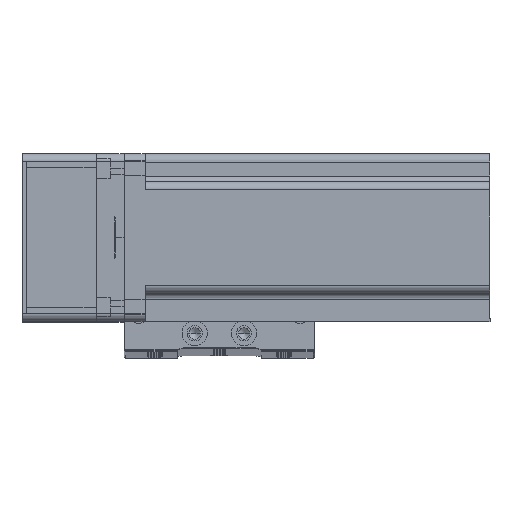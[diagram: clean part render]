
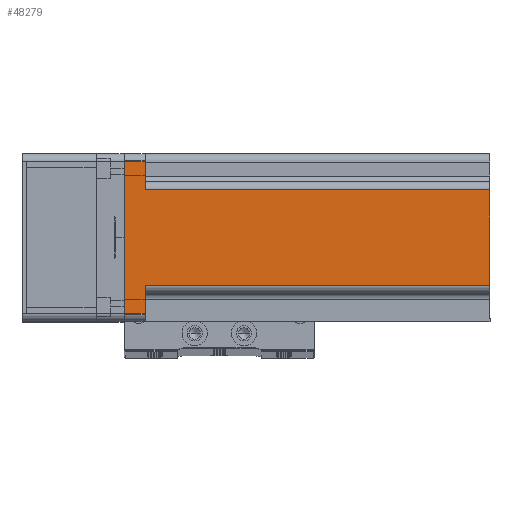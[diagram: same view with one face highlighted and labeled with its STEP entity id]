
A CAD part, top view. The second image highlights one B-rep face of the part: STEP entity #48279.
In plain terms, the highlighted planar face has unit normal (0, 0, 1) as drawn and (0, 1, 0) by its records, which use the part's own axes.
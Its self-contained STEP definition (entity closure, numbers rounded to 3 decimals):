
#1759 = ORIENTED_EDGE ( 'NONE', *, *, #52385, .F. ) ;
#3037 = EDGE_CURVE ( 'NONE', #34944, #45047, #24202, .T. ) ;
#3430 = DIRECTION ( 'NONE',  ( 0., 0., 1. ) ) ;
#4714 = CARTESIAN_POINT ( 'NONE',  ( -20., 30., 7.5 ) ) ;
#4829 = VECTOR ( 'NONE', #47538, 1000. ) ;
#4949 = VECTOR ( 'NONE', #59389, 1000. ) ;
#5170 = CARTESIAN_POINT ( 'NONE',  ( -17., 30., 130.7 ) ) ;
#5334 = CARTESIAN_POINT ( 'NONE',  ( -27., 30., 7.5 ) ) ;
#5532 = VERTEX_POINT ( 'NONE', #18426 ) ;
#5895 = ORIENTED_EDGE ( 'NONE', *, *, #12792, .T. ) ;
#6511 = VECTOR ( 'NONE', #55481, 1000. ) ;
#7044 = DIRECTION ( 'NONE',  ( -1., 0., 0. ) ) ;
#7942 = LINE ( 'NONE', #27984, #6511 ) ;
#8457 = AXIS2_PLACEMENT_3D ( 'NONE', #52807, #25332, #57465 ) ;
#9615 = VECTOR ( 'NONE', #18500, 1000. ) ;
#10812 = LINE ( 'NONE', #30076, #58146 ) ;
#11338 = LINE ( 'NONE', #58935, #46447 ) ;
#12108 = VERTEX_POINT ( 'NONE', #5334 ) ;
#12559 = ORIENTED_EDGE ( 'NONE', *, *, #14088, .T. ) ;
#12792 = EDGE_CURVE ( 'NONE', #12108, #34944, #23181, .T. ) ;
#13078 = ORIENTED_EDGE ( 'NONE', *, *, #23074, .T. ) ;
#14088 = EDGE_CURVE ( 'NONE', #21839, #58098, #10812, .T. ) ;
#15192 = CARTESIAN_POINT ( 'NONE',  ( -27., 30., 0. ) ) ;
#15994 = CARTESIAN_POINT ( 'NONE',  ( 17., 30., 7.5 ) ) ;
#18426 = CARTESIAN_POINT ( 'NONE',  ( 17., 30., 130.7 ) ) ;
#18500 = DIRECTION ( 'NONE',  ( 1., 0., 0. ) ) ;
#18799 = VECTOR ( 'NONE', #7044, 1000. ) ;
#19872 = ORIENTED_EDGE ( 'NONE', *, *, #53242, .T. ) ;
#21839 = VERTEX_POINT ( 'NONE', #24011 ) ;
#23074 = EDGE_CURVE ( 'NONE', #43037, #21839, #11338, .T. ) ;
#23181 = LINE ( 'NONE', #4714, #9615 ) ;
#24011 = CARTESIAN_POINT ( 'NONE',  ( 27., 30., 0. ) ) ;
#24202 = LINE ( 'NONE', #45253, #59359 ) ;
#24685 = CARTESIAN_POINT ( 'NONE',  ( 17., 30., 130.7 ) ) ;
#25332 = DIRECTION ( 'NONE',  ( 0., -1., 0. ) ) ;
#26461 = ORIENTED_EDGE ( 'NONE', *, *, #3037, .T. ) ;
#27716 = LINE ( 'NONE', #24685, #4829 ) ;
#27984 = CARTESIAN_POINT ( 'NONE',  ( 30., 30., 130.7 ) ) ;
#28633 = EDGE_LOOP ( 'NONE', ( #5895, #26461, #1759, #40443, #31992, #13078, #12559, #19872 ) ) ;
#29591 = LINE ( 'NONE', #39040, #18799 ) ;
#30076 = CARTESIAN_POINT ( 'NONE',  ( 30., 30., 0. ) ) ;
#30908 = CARTESIAN_POINT ( 'NONE',  ( 27., 30., 7.5 ) ) ;
#31700 = VERTEX_POINT ( 'NONE', #15994 ) ;
#31992 = ORIENTED_EDGE ( 'NONE', *, *, #55362, .F. ) ;
#34353 = PLANE ( 'NONE',  #8457 ) ;
#34944 = VERTEX_POINT ( 'NONE', #42203 ) ;
#36013 = DIRECTION ( 'NONE',  ( 0., 0., -1. ) ) ;
#39040 = CARTESIAN_POINT ( 'NONE',  ( 20., 30., 7.5 ) ) ;
#40443 = ORIENTED_EDGE ( 'NONE', *, *, #41090, .T. ) ;
#41090 = EDGE_CURVE ( 'NONE', #5532, #31700, #27716, .T. ) ;
#41495 = LINE ( 'NONE', #54768, #4949 ) ;
#42203 = CARTESIAN_POINT ( 'NONE',  ( -17., 30., 7.5 ) ) ;
#43037 = VERTEX_POINT ( 'NONE', #30908 ) ;
#45047 = VERTEX_POINT ( 'NONE', #5170 ) ;
#45253 = CARTESIAN_POINT ( 'NONE',  ( -17., 30., 130.7 ) ) ;
#46447 = VECTOR ( 'NONE', #36013, 1000. ) ;
#47538 = DIRECTION ( 'NONE',  ( 0., 0., -1. ) ) ;
#48279 = ADVANCED_FACE ( 'NONE', ( #54701 ), #34353, .F. ) ;
#52385 = EDGE_CURVE ( 'NONE', #5532, #45047, #7942, .T. ) ;
#52807 = CARTESIAN_POINT ( 'NONE',  ( 30., 30., 130.7 ) ) ;
#53242 = EDGE_CURVE ( 'NONE', #58098, #12108, #41495, .T. ) ;
#54701 = FACE_OUTER_BOUND ( 'NONE', #28633, .T. ) ;
#54768 = CARTESIAN_POINT ( 'NONE',  ( -27., 30., 130.7 ) ) ;
#55362 = EDGE_CURVE ( 'NONE', #43037, #31700, #29591, .T. ) ;
#55481 = DIRECTION ( 'NONE',  ( -1., 0., 0. ) ) ;
#57465 = DIRECTION ( 'NONE',  ( 1., 0., 0. ) ) ;
#57552 = DIRECTION ( 'NONE',  ( -1., 0., 0. ) ) ;
#58098 = VERTEX_POINT ( 'NONE', #15192 ) ;
#58146 = VECTOR ( 'NONE', #57552, 1000. ) ;
#58935 = CARTESIAN_POINT ( 'NONE',  ( 27., 30., 130.7 ) ) ;
#59359 = VECTOR ( 'NONE', #3430, 1000. ) ;
#59389 = DIRECTION ( 'NONE',  ( 0., 0., 1. ) ) ;
